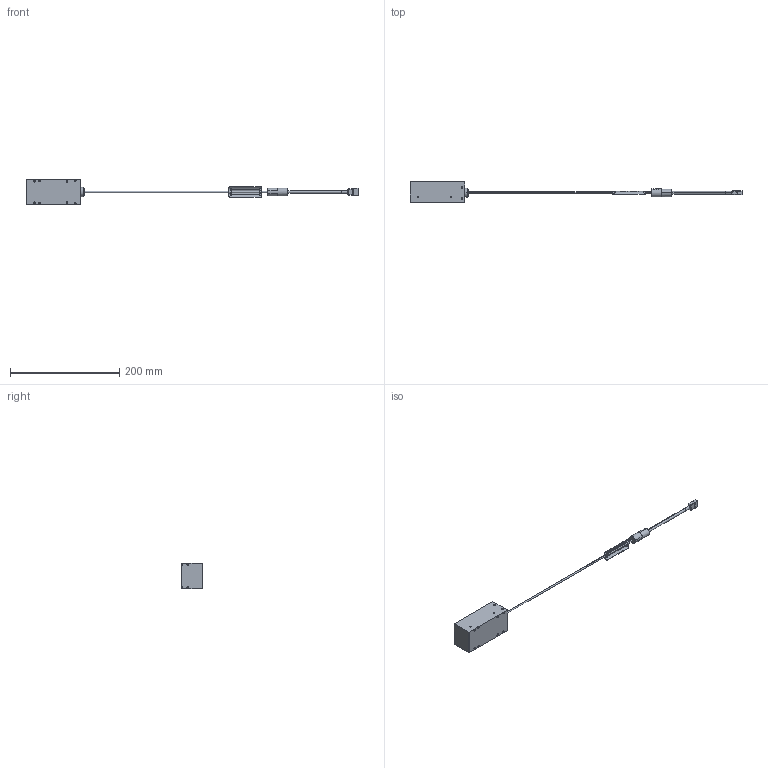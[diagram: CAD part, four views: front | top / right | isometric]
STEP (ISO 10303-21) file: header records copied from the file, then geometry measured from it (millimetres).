
FILE_DESCRIPTION (( 'STEP AP203' ), '1' );
FILE_NAME ('MCBP-C#3430_A09355A0100101A-003.STEP', '2014-01-06T02:49:14', ( 'SCHOTT' ), ( 'SCHOTT' ), 'SwSTEP 2.0', 'SolidWorks 2011', '' );
FILE_SCHEMA (( 'CONFIG_CONTROL_DESIGN' ));
Length unit declared in the file: millimetre
Products named in the file (1): MCBP-C#3430_A09355A0100101A-003
Bounding box: 607 x 39.1 x 46 mm (x, y, z)
Volume: 188924.1 mm3; surface area: 32559 mm2
Topology: 2 solids, 30 shells, 879 faces, 2500 edges, 1766 vertices
Faces by surface type: plane 480, cylinder 304, cone 76, bspline 8, torus 7, sphere 4
Entity records: 35164 total; most frequent: CARTESIAN_POINT 12000, ORIENTED_EDGE 4992, DIRECTION 4540, EDGE_CURVE 2496, VERTEX_POINT 1766, AXIS2_PLACEMENT_3D 1551, LINE 1438, VECTOR 1438
